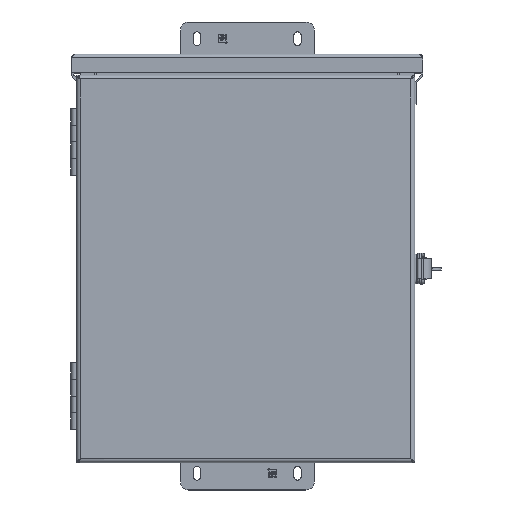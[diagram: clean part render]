
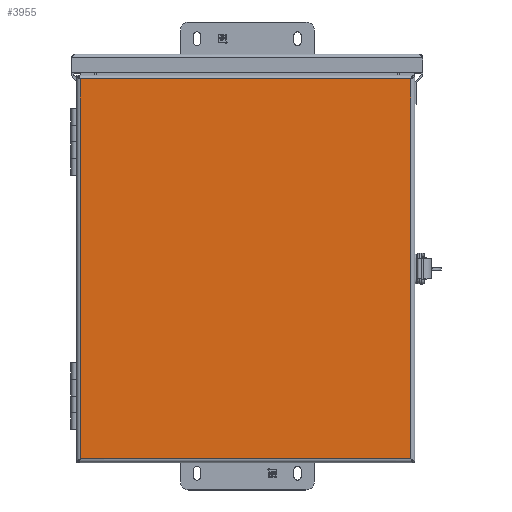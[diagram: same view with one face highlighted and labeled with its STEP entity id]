
A CAD part, top view. The second image highlights one B-rep face of the part: STEP entity #3955.
In plain terms, the highlighted planar face has unit normal (0, 0, 1).
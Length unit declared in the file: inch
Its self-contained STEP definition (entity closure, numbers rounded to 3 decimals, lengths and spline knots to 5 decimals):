
#3955 = ADVANCED_FACE ( 'NONE', ( #14907 ), #16525, .T. ) ;
#4335 = VERTEX_POINT ( 'NONE', #20395 ) ;
#4947 = VERTEX_POINT ( 'NONE', #21275 ) ;
#4982 = VERTEX_POINT ( 'NONE', #21310 ) ;
#5111 = VERTEX_POINT ( 'NONE', #21439 ) ;
#5958 = EDGE_CURVE ( 'NONE', #4982, #5111, #23661, .T. ) ;
#5964 = EDGE_CURVE ( 'NONE', #4947, #4335, #23677, .T. ) ;
#5966 = EDGE_CURVE ( 'NONE', #4335, #4982, #23681, .T. ) ;
#5970 = EDGE_CURVE ( 'NONE', #5111, #4947, #23668, .T. ) ;
#10221 = EDGE_LOOP ( 'NONE', ( #12178, #12182, #12243, #12169 ) ) ;
#12169 = ORIENTED_EDGE ( 'NONE', *, *, #5958, .T. ) ;
#12178 = ORIENTED_EDGE ( 'NONE', *, *, #5970, .T. ) ;
#12182 = ORIENTED_EDGE ( 'NONE', *, *, #5964, .T. ) ;
#12243 = ORIENTED_EDGE ( 'NONE', *, *, #5966, .T. ) ;
#13659 = AXIS2_PLACEMENT_3D ( 'NONE', #16520, #16530, #16531 ) ;
#14907 = FACE_OUTER_BOUND ( 'NONE', #10221, .T. ) ;
#16520 = CARTESIAN_POINT ( 'NONE',  ( 5.06, -5.795, 0.055 ) ) ;
#16525 = PLANE ( 'NONE',  #13659 ) ;
#16530 = DIRECTION ( 'NONE',  ( 0., 0., 1. ) ) ;
#16531 = DIRECTION ( 'NONE',  ( 1., 0., 0. ) ) ;
#20395 = CARTESIAN_POINT ( 'NONE',  ( 4.945, -5.68, 0.055 ) ) ;
#21275 = CARTESIAN_POINT ( 'NONE',  ( -4.945, -5.68, 0.055 ) ) ;
#21310 = CARTESIAN_POINT ( 'NONE',  ( 4.945, 5.68, 0.055 ) ) ;
#21439 = CARTESIAN_POINT ( 'NONE',  ( -4.945, 5.68, 0.055 ) ) ;
#23661 = LINE ( 'NONE', #25383, #23662 ) ;
#23662 = VECTOR ( 'NONE', #25384, 39.37008 ) ;
#23668 = LINE ( 'NONE', #25393, #23689 ) ;
#23677 = LINE ( 'NONE', #25395, #23678 ) ;
#23678 = VECTOR ( 'NONE', #25396, 39.37008 ) ;
#23681 = LINE ( 'NONE', #25399, #23682 ) ;
#23682 = VECTOR ( 'NONE', #25400, 39.37008 ) ;
#23689 = VECTOR ( 'NONE', #25407, 39.37008 ) ;
#25383 = CARTESIAN_POINT ( 'NONE',  ( 5.00429, 5.68, 0.055 ) ) ;
#25384 = DIRECTION ( 'NONE',  ( -1., 0., 0. ) ) ;
#25393 = CARTESIAN_POINT ( 'NONE',  ( -4.945, 5.73929, 0.055 ) ) ;
#25395 = CARTESIAN_POINT ( 'NONE',  ( -5.00429, -5.68, 0.055 ) ) ;
#25396 = DIRECTION ( 'NONE',  ( 1., 0., 0. ) ) ;
#25399 = CARTESIAN_POINT ( 'NONE',  ( 4.945, -5.73929, 0.055 ) ) ;
#25400 = DIRECTION ( 'NONE',  ( 0., 1., 0. ) ) ;
#25407 = DIRECTION ( 'NONE',  ( 0., -1., 0. ) ) ;
